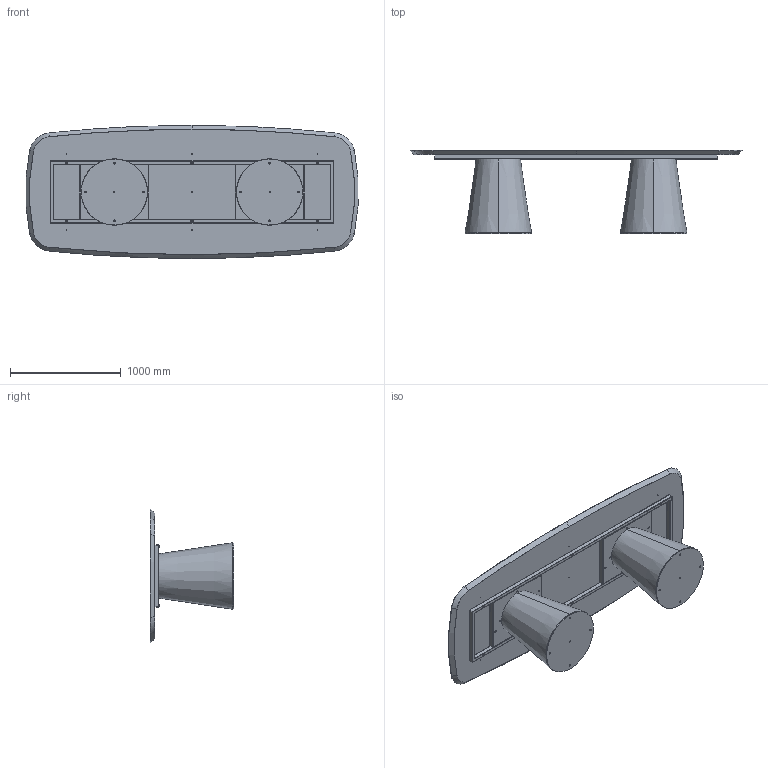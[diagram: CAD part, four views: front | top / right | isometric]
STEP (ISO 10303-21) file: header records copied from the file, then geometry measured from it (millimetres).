
FILE_DESCRIPTION (( 'STEP AP203' ), '1' );
FILE_NAME ('TO44W_Teo_300x120_Wood Shaped.STEP', '2024-08-02T09:40:34', ( '' ), ( '' ), 'SwSTEP 2.0', 'SolidWorks 2022', '' );
FILE_SCHEMA (( 'CONFIG_CONTROL_DESIGN' ));
Length unit declared in the file: millimetre
Products named in the file (12): W4XCMXX-00-Piani Sagomati legno_3000 x 1200; TEO0000-00-TEO BASE LEGNO IMPIALLACCIATA LEVIGATO PRONTA X VERNICE; TTAV03_02-06-VASSOIO IRRIGIDIMENTO TELAIO UNIVERSALE RETTANGOLARE; M8xXXmm_hex_M8X20mm; rondella M8_8X24; TO44W_Teo_300x120_Wood Shaped; TTAV03-06-TELAIO UNIVERSALE X TAVOLI 300-340cm; M8xXXmm_M8x55mm; BASE TED LEGNO CON ZAVORRA; TEO000000PIA-00-TEO PIASTRA DI BASE IN METALLO GREZZO; COLLO TELAIO UNIVERSALE TTAV03 CON FERRAMENTA_MTG TOP LEGNO-MARMO-KING; TTAV03_01-06-RING TUBO TELAIO UNIVERSALE X TAVOLI 300-340cm
Assembly tree (26 placements, depth 4):
  TO44W_Teo_300x120_Wood Shaped
    BASE TED LEGNO CON ZAVORRA  x2
      TEO000000PIA-00-TEO PIASTRA DI BASE IN METALLO GREZZO
      TEO0000-00-TEO BASE LEGNO IMPIALLACCIATA LEVIGATO PRONTA X VERNICE
      M8xXXmm_hex_M8X20mm
    COLLO TELAIO UNIVERSALE TTAV03 CON FERRAMENTA_MTG TOP LEGNO-MARMO-KING
      TTAV03-06-TELAIO UNIVERSALE X TAVOLI 300-340cm
        TTAV03_01-06-RING TUBO TELAIO UNIVERSALE X TAVOLI 300-340cm
        TTAV03_02-06-VASSOIO IRRIGIDIMENTO TELAIO UNIVERSALE RETTANGOLARE  x2
      rondella M8_8X24  x6
      M8xXXmm_M8x55mm  x6
    W4XCMXX-00-Piani Sagomati legno_3000 x 1200
Bounding box: 2991.72 x 751.19 x 1200 mm (x, y, z)
Volume: 183390647.3 mm3; surface area: 16488563 mm2
Topology: 28 solids, 28 shells, 1143 faces, 2622 edges, 1500 vertices
Faces by surface type: plane 486, cylinder 335, cone 217, torus 97, sphere 8
Entity records: 15755 total; most frequent: DIRECTION 2613, CARTESIAN_POINT 2432, ORIENTED_EDGE 2268, EDGE_CURVE 1134, AXIS2_PLACEMENT_3D 990, VERTEX_POINT 691, LINE 633, VECTOR 633
